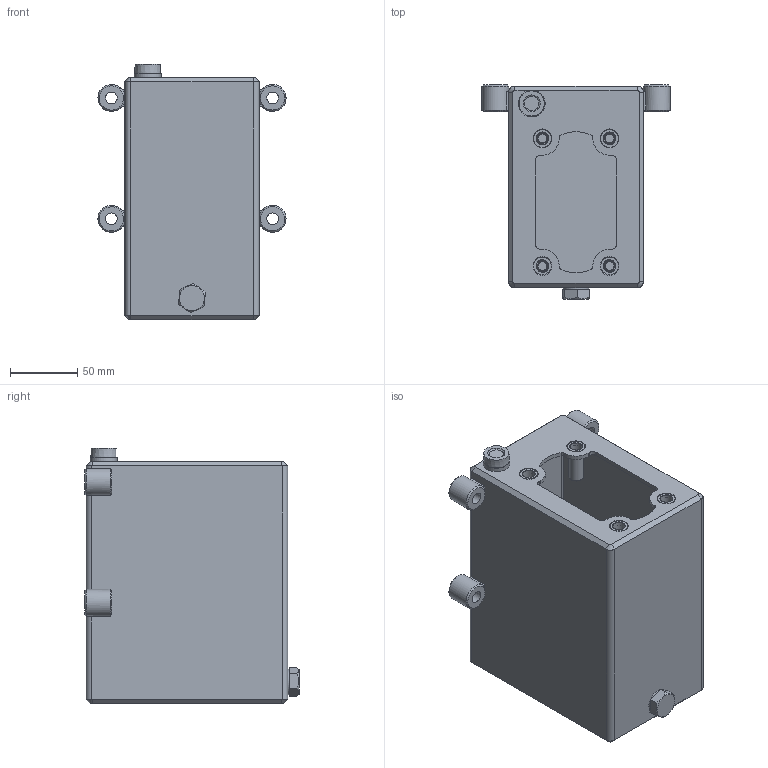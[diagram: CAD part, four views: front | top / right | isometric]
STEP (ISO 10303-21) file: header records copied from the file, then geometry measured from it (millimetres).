
FILE_DESCRIPTION(/* description */ ('Unknown'),/* implementation_level */ '2;1');
FILE_NAME(/* name */ 'SR02AISI',/* time_stamp */ '2024-12-05T07:09:42+01:00',/* author */ ('Unknown'),/* organization */ ('Unknown'),/* preprocessor_version */ 'ST-DEVELOPER v19.4',/* originating_system */ 'Solid Edge',/* authorisation */ 'Unknown');
FILE_SCHEMA (('AUTOMOTIVE_DESIGN {1 0 10303 214 3 1 1}'));
Length unit declared in the file: millimetre
Products named in the file (1): SR02AISI
Bounding box: 140 x 159.5 x 190 mm (x, y, z)
Volume: 354161.4 mm3; surface area: 232951.4 mm2
Topology: 1 solids, 1 shells, 207 faces, 489 edges, 306 vertices
Faces by surface type: plane 106, cylinder 56, cone 32, torus 13
Full cylindrical faces by diameter (mm): 1.8 x1, 6.647 x4, 7.7 x1, 8.8 x4, 9.15 x4, 10.88 x4, 10.9 x4, 13.157 x2, 13.2 x4, 19 x1, 20 x5
Entity records: 6969 total; most frequent: CARTESIAN_POINT 1109, DIRECTION 972, ORIENTED_EDGE 762, AXIS2_PLACEMENT_3D 391, EDGE_CURVE 381, EDGE_LOOP 311, FACE_BOUND 311, VERTEX_POINT 270
